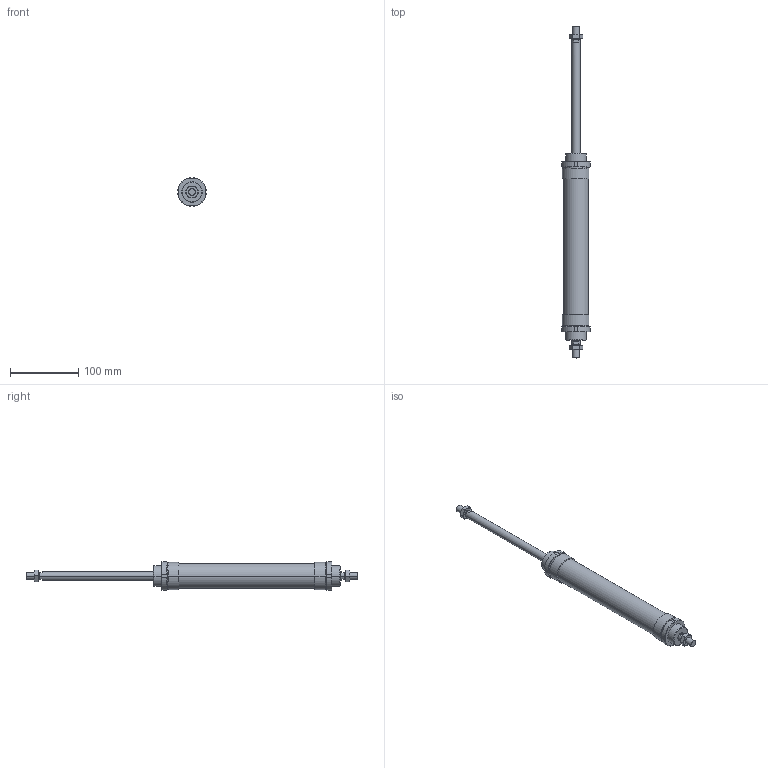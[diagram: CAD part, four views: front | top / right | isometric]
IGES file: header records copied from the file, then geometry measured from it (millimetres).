
Global section: file name: No Iges File Name specified; native system: AutoDesk Inventor R6.0; preprocessor: AutoDesk Inventor Iges Exporter R6.0; author: No Author specified; organization: No Organization specified; date: 20030403.072650; units: millimetre
Bounding box: 41.7 x 485 x 41.7 mm (x, y, z)
Volume: 305554.3 mm3; surface area: 70140.4 mm2
Topology: 6 solids, 6 shells, 182 faces, 424 edges, 264 vertices
Faces by surface type: plane 66, cone 52, bspline 30, cylinder 28, revolution 6
